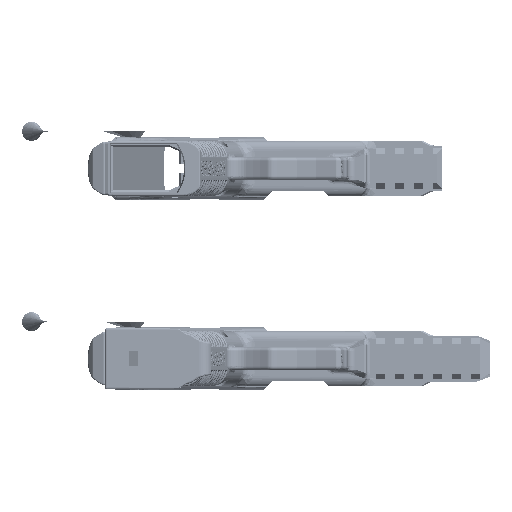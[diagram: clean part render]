
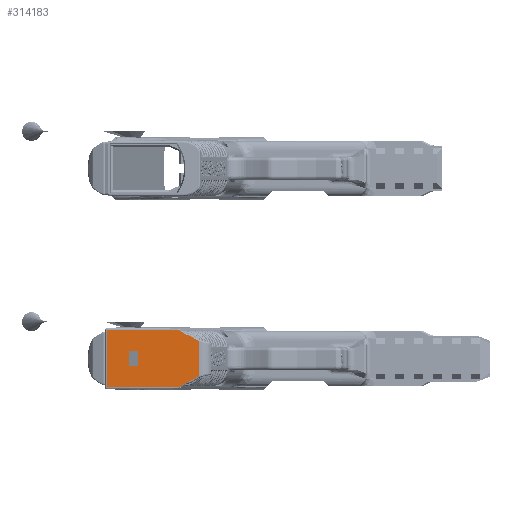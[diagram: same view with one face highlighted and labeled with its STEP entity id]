
A CAD part, front view. The second image highlights one B-rep face of the part: STEP entity #314183.
In plain terms, the highlighted planar face has unit normal (0, -1, 0).
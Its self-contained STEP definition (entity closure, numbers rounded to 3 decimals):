
#29716=FACE_BOUND('',#72630,.T.);
#32275=B_SPLINE_CURVE_WITH_KNOTS('',3,(#613746,#613747,#613748,#613749),
 .UNSPECIFIED.,.F.,.F.,(4,4),(0.078,0.376),
 .UNSPECIFIED.);
#32276=B_SPLINE_CURVE_WITH_KNOTS('',3,(#613757,#613758,#613759,#613760,
#613761,#613762,#613763,#613764,#613765,#613766,#613767,#613768,#613769),
 .UNSPECIFIED.,.F.,.F.,(4,1,1,1,1,1,1,1,1,1,4),(-0.998,-0.94,
-0.824,-0.766,-0.708,-0.679,
-0.65,-0.621,-0.607,-0.6,
-0.592),.UNSPECIFIED.);
#52877=FACE_OUTER_BOUND('',#72629,.T.);
#72629=EDGE_LOOP('',(#290263,#290264,#290265,#290266,#290267,#290268,#290269,
#290270,#290271,#290272,#290273,#290274));
#72630=EDGE_LOOP('',(#290275,#290276,#290277,#290278));
#93382=LINE('',#613719,#114137);
#93386=LINE('',#613734,#114141);
#93387=LINE('',#613740,#114142);
#93388=LINE('',#613742,#114143);
#93389=LINE('',#613744,#114144);
#93390=LINE('',#613751,#114145);
#93391=LINE('',#613753,#114146);
#93392=LINE('',#613755,#114147);
#93393=LINE('',#613771,#114148);
#93394=LINE('',#613772,#114149);
#93395=LINE('',#613775,#114150);
#93396=LINE('',#613777,#114151);
#93397=LINE('',#613779,#114152);
#93398=LINE('',#613780,#114153);
#114137=VECTOR('',#376542,10.);
#114141=VECTOR('',#376562,10.);
#114142=VECTOR('',#376569,10.);
#114143=VECTOR('',#376570,10.);
#114144=VECTOR('',#376571,10.);
#114145=VECTOR('',#376572,10.);
#114146=VECTOR('',#376573,10.);
#114147=VECTOR('',#376574,10.);
#114148=VECTOR('',#376575,10.);
#114149=VECTOR('',#376576,10.);
#114150=VECTOR('',#376577,10.);
#114151=VECTOR('',#376578,10.);
#114152=VECTOR('',#376579,10.);
#114153=VECTOR('',#376580,10.);
#150086=VERTEX_POINT('',#613715);
#150087=VERTEX_POINT('',#613717);
#150090=VERTEX_POINT('',#613733);
#150092=VERTEX_POINT('',#613739);
#150093=VERTEX_POINT('',#613741);
#150094=VERTEX_POINT('',#613743);
#150095=VERTEX_POINT('',#613745);
#150096=VERTEX_POINT('',#613750);
#150097=VERTEX_POINT('',#613752);
#150098=VERTEX_POINT('',#613754);
#150099=VERTEX_POINT('',#613756);
#150100=VERTEX_POINT('',#613770);
#150101=VERTEX_POINT('',#613773);
#150102=VERTEX_POINT('',#613774);
#150103=VERTEX_POINT('',#613776);
#150104=VERTEX_POINT('',#613778);
#196836=EDGE_CURVE('',#150087,#150086,#93382,.T.);
#196843=EDGE_CURVE('',#150086,#150090,#93386,.T.);
#196846=EDGE_CURVE('',#150092,#150087,#93387,.T.);
#196847=EDGE_CURVE('',#150093,#150092,#93388,.T.);
#196848=EDGE_CURVE('',#150094,#150093,#93389,.T.);
#196849=EDGE_CURVE('',#150095,#150094,#32275,.T.);
#196850=EDGE_CURVE('',#150095,#150096,#93390,.T.);
#196851=EDGE_CURVE('',#150096,#150097,#93391,.T.);
#196852=EDGE_CURVE('',#150098,#150097,#93392,.T.);
#196853=EDGE_CURVE('',#150098,#150099,#32276,.T.);
#196854=EDGE_CURVE('',#150100,#150099,#93393,.T.);
#196855=EDGE_CURVE('',#150090,#150100,#93394,.T.);
#196856=EDGE_CURVE('',#150101,#150102,#93395,.T.);
#196857=EDGE_CURVE('',#150102,#150103,#93396,.T.);
#196858=EDGE_CURVE('',#150103,#150104,#93397,.T.);
#196859=EDGE_CURVE('',#150104,#150101,#93398,.T.);
#290263=ORIENTED_EDGE('',*,*,#196836,.F.);
#290264=ORIENTED_EDGE('',*,*,#196846,.F.);
#290265=ORIENTED_EDGE('',*,*,#196847,.F.);
#290266=ORIENTED_EDGE('',*,*,#196848,.F.);
#290267=ORIENTED_EDGE('',*,*,#196849,.F.);
#290268=ORIENTED_EDGE('',*,*,#196850,.T.);
#290269=ORIENTED_EDGE('',*,*,#196851,.T.);
#290270=ORIENTED_EDGE('',*,*,#196852,.F.);
#290271=ORIENTED_EDGE('',*,*,#196853,.T.);
#290272=ORIENTED_EDGE('',*,*,#196854,.F.);
#290273=ORIENTED_EDGE('',*,*,#196855,.F.);
#290274=ORIENTED_EDGE('',*,*,#196843,.F.);
#290275=ORIENTED_EDGE('',*,*,#196856,.T.);
#290276=ORIENTED_EDGE('',*,*,#196857,.T.);
#290277=ORIENTED_EDGE('',*,*,#196858,.T.);
#290278=ORIENTED_EDGE('',*,*,#196859,.T.);
#296288=PLANE('',#328143);
#314183=ADVANCED_FACE('',(#52877,#29716),#296288,.T.);
#328143=AXIS2_PLACEMENT_3D('',#613738,#376567,#376568);
#376542=DIRECTION('',(0.,0.,1.));
#376562=DIRECTION('',(1.,0.,0.));
#376567=DIRECTION('center_axis',(0.,-1.,0.));
#376568=DIRECTION('ref_axis',(0.,0.,
-1.));
#376569=DIRECTION('',(-1.,0.,0.));
#376570=DIRECTION('',(-0.849,0.,-0.528));
#376571=DIRECTION('',(-0.849,0.,-0.528));
#376572=DIRECTION('',(0.849,0.,0.528));
#376573=DIRECTION('',(0.,0.,1.));
#376574=DIRECTION('',(0.849,0.,-0.528));
#376575=DIRECTION('',(0.849,0.,-0.528));
#376576=DIRECTION('',(0.849,0.,-0.528));
#376577=DIRECTION('',(-1.,0.,0.));
#376578=DIRECTION('',(0.,0.,1.));
#376579=DIRECTION('',(1.,0.,0.));
#376580=DIRECTION('',(0.,0.,-1.));
#613715=CARTESIAN_POINT('',(-82.842,-63.549,-54.359));
#613717=CARTESIAN_POINT('',(-82.842,-63.549,-84.641));
#613719=CARTESIAN_POINT('',(-82.842,-63.549,-53.));
#613733=CARTESIAN_POINT('',(-45.134,-63.549,-54.359));
#613734=CARTESIAN_POINT('',(-82.323,-63.549,-54.359));
#613738=CARTESIAN_POINT('Origin',(-82.323,-63.549,-53.));
#613739=CARTESIAN_POINT('',(-45.134,-63.549,-84.641));
#613740=CARTESIAN_POINT('',(-82.323,-63.549,-84.641));
#613741=CARTESIAN_POINT('',(-44.65,-63.549,-84.341));
#613742=CARTESIAN_POINT('',(-46.324,-63.549,-85.38));
#613743=CARTESIAN_POINT('',(-40.538,-63.549,-81.786));
#613744=CARTESIAN_POINT('',(-46.324,-63.549,-85.38));
#613745=CARTESIAN_POINT('',(-37.782,-63.549,-80.663));
#613746=CARTESIAN_POINT('Ctrl Pts',(-37.784,-63.549,
-80.659));
#613747=CARTESIAN_POINT('Ctrl Pts',(-38.631,-63.549,
-81.185));
#613748=CARTESIAN_POINT('Ctrl Pts',(-39.567,-63.549,
-81.568));
#613749=CARTESIAN_POINT('Ctrl Pts',(-40.538,-63.549,
-81.786));
#613750=CARTESIAN_POINT('',(-34.597,-63.549,-78.685));
#613751=CARTESIAN_POINT('',(-44.688,-63.549,-84.953));
#613752=CARTESIAN_POINT('',(-34.597,-63.549,-60.315));
#613753=CARTESIAN_POINT('',(-34.597,-63.549,-78.274));
#613754=CARTESIAN_POINT('',(-37.782,-63.549,-58.337));
#613755=CARTESIAN_POINT('',(-44.688,-63.549,-54.047));
#613756=CARTESIAN_POINT('',(-41.458,-63.549,-56.642));
#613757=CARTESIAN_POINT('Ctrl Pts',(-37.783,-63.549,
-58.34));
#613758=CARTESIAN_POINT('Ctrl Pts',(-37.947,-63.549,
-58.238));
#613759=CARTESIAN_POINT('Ctrl Pts',(-38.446,-63.549,
-57.944));
#613760=CARTESIAN_POINT('Ctrl Pts',(-39.137,-63.549,
-57.598));
#613761=CARTESIAN_POINT('Ctrl Pts',(-39.85,-63.549,
-57.296));
#613762=CARTESIAN_POINT('Ctrl Pts',(-40.301,-63.549,
-57.124));
#613763=CARTESIAN_POINT('Ctrl Pts',(-40.663,-63.549,
-56.99));
#613764=CARTESIAN_POINT('Ctrl Pts',(-40.934,-63.549,
-56.889));
#613765=CARTESIAN_POINT('Ctrl Pts',(-41.158,-63.549,
-56.798));
#613766=CARTESIAN_POINT('Ctrl Pts',(-41.311,-63.549,
-56.725));
#613767=CARTESIAN_POINT('Ctrl Pts',(-41.396,-63.549,
-56.68));
#613768=CARTESIAN_POINT('Ctrl Pts',(-41.437,-63.549,
-56.655));
#613769=CARTESIAN_POINT('Ctrl Pts',(-41.458,-63.549,
-56.642));
#613770=CARTESIAN_POINT('',(-44.65,-63.549,-54.659));
#613771=CARTESIAN_POINT('',(-58.765,-63.549,-45.892));
#613772=CARTESIAN_POINT('',(-58.765,-63.549,-45.892));
#613773=CARTESIAN_POINT('',(-66.448,-63.549,-73.375));
#613774=CARTESIAN_POINT('',(-71.448,-63.549,-73.375));
#613775=CARTESIAN_POINT('',(-76.386,-63.549,-73.375));
#613776=CARTESIAN_POINT('',(-71.448,-63.549,-65.625));
#613777=CARTESIAN_POINT('',(-71.448,-63.549,-59.312));
#613778=CARTESIAN_POINT('',(-66.448,-63.549,-65.625));
#613779=CARTESIAN_POINT('',(-76.386,-63.549,-65.625));
#613780=CARTESIAN_POINT('',(-66.448,-63.549,-71.438));
